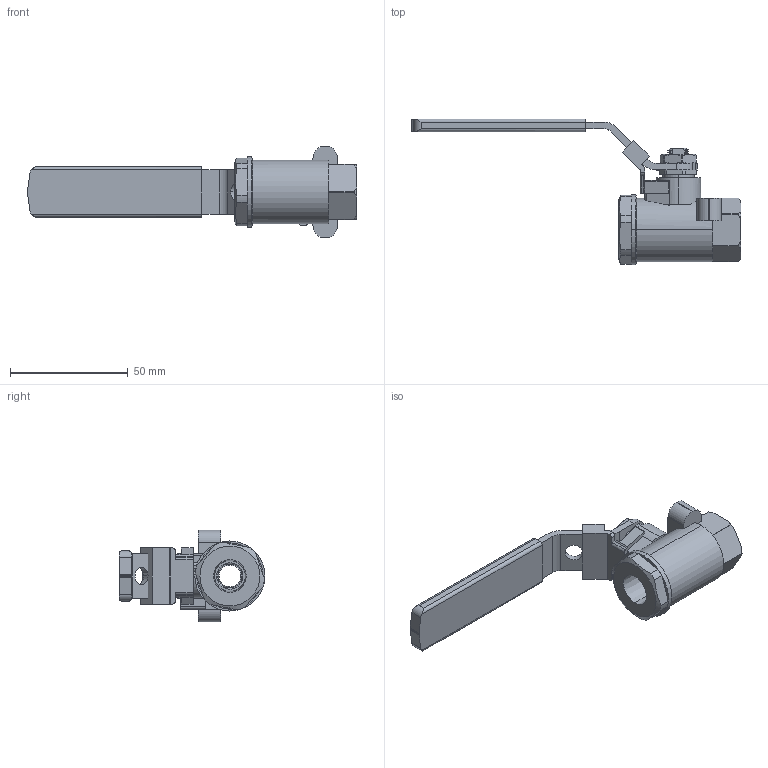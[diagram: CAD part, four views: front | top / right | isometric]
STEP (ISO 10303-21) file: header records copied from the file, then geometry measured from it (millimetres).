
FILE_DESCRIPTION (( 'STEP AP203' ), '1' );
FILE_NAME ('shm-2ll.STEP', '2020-09-03T21:25:11', ( '' ), ( '' ), 'SwSTEP 2.0', 'SolidWorks 2017', '' );
FILE_SCHEMA (( 'CONFIG_CONTROL_DESIGN' ));
Length unit declared in the file: inch
Products named in the file (5): SHMLL-2-3-HANDLE; shm-2; shm-2ll
Assembly tree (2 placements, depth 2):
  shm-2ll
    shm-2
    SHMLL-2-3-HANDLE
  shm-2
  SHMLL-2-3-HANDLE
Bounding box: 139.7 x 61.85 x 38.86 mm (x, y, z)
Volume: 42106.5 mm3; surface area: 18510 mm2
Topology: 5 solids, 6 shells, 324 faces, 873 edges, 567 vertices
Faces by surface type: plane 127, cylinder 112, bspline 49, cone 34, sphere 2
Entity records: 24248 total; most frequent: CARTESIAN_POINT 16185, ORIENTED_EDGE 1738, DIRECTION 1453, EDGE_CURVE 869, VERTEX_POINT 567, AXIS2_PLACEMENT_3D 527, LINE 399, VECTOR 399
